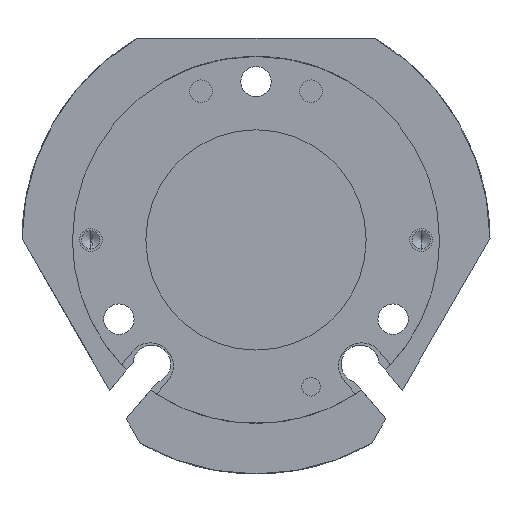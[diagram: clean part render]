
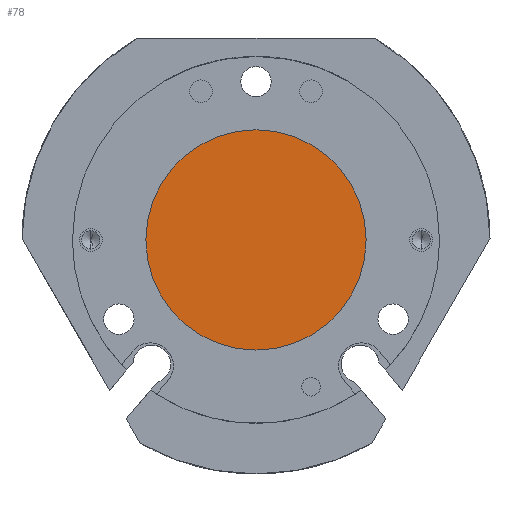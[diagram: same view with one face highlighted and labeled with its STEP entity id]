
A CAD part, front view. The second image highlights one B-rep face of the part: STEP entity #78.
In plain terms, the highlighted planar face has unit normal (0, -1, 0) as drawn and (0, 1, 0) by its records, which use the part's own axes.
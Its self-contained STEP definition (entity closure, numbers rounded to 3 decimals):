
#78 = ADVANCED_FACE ( 'NONE', ( #4318 ), #3021, .T. ) ;
#299 = ORIENTED_EDGE ( 'NONE', *, *, #3024, .T. ) ;
#533 = DIRECTION ( 'NONE',  ( 0., 1., 0. ) ) ;
#541 = ORIENTED_EDGE ( 'NONE', *, *, #2576, .T. ) ;
#1215 = DIRECTION ( 'NONE',  ( 1., 0., 0. ) ) ;
#1825 = CIRCLE ( 'NONE', #6018, 12. ) ;
#2030 = CARTESIAN_POINT ( 'NONE',  ( 0., 2.5, 12. ) ) ;
#2356 = DIRECTION ( 'NONE',  ( 0., 0., 1. ) ) ;
#2576 = EDGE_CURVE ( 'NONE', #5279, #3640, #7028, .T. ) ;
#2993 = CARTESIAN_POINT ( 'NONE',  ( 0., 2.5, 0. ) ) ;
#3021 = PLANE ( 'NONE',  #3266 ) ;
#3024 = EDGE_CURVE ( 'NONE', #3640, #5279, #1825, .T. ) ;
#3266 = AXIS2_PLACEMENT_3D ( 'NONE', #2993, #7631, #2356 ) ;
#3286 = DIRECTION ( 'NONE',  ( 1., 0., 0. ) ) ;
#3640 = VERTEX_POINT ( 'NONE', #5813 ) ;
#3964 = EDGE_LOOP ( 'NONE', ( #299, #541 ) ) ;
#4318 = FACE_OUTER_BOUND ( 'NONE', #3964, .T. ) ;
#4588 = CARTESIAN_POINT ( 'NONE',  ( 0., 2.5, 0. ) ) ;
#5279 = VERTEX_POINT ( 'NONE', #2030 ) ;
#5813 = CARTESIAN_POINT ( 'NONE',  ( 0., 2.5, -12. ) ) ;
#6018 = AXIS2_PLACEMENT_3D ( 'NONE', #7806, #533, #1215 ) ;
#6463 = AXIS2_PLACEMENT_3D ( 'NONE', #4588, #8489, #3286 ) ;
#7028 = CIRCLE ( 'NONE', #6463, 12. ) ;
#7631 = DIRECTION ( 'NONE',  ( 0., 1., 0. ) ) ;
#7806 = CARTESIAN_POINT ( 'NONE',  ( 0., 2.5, 0. ) ) ;
#8489 = DIRECTION ( 'NONE',  ( 0., 1., 0. ) ) ;
